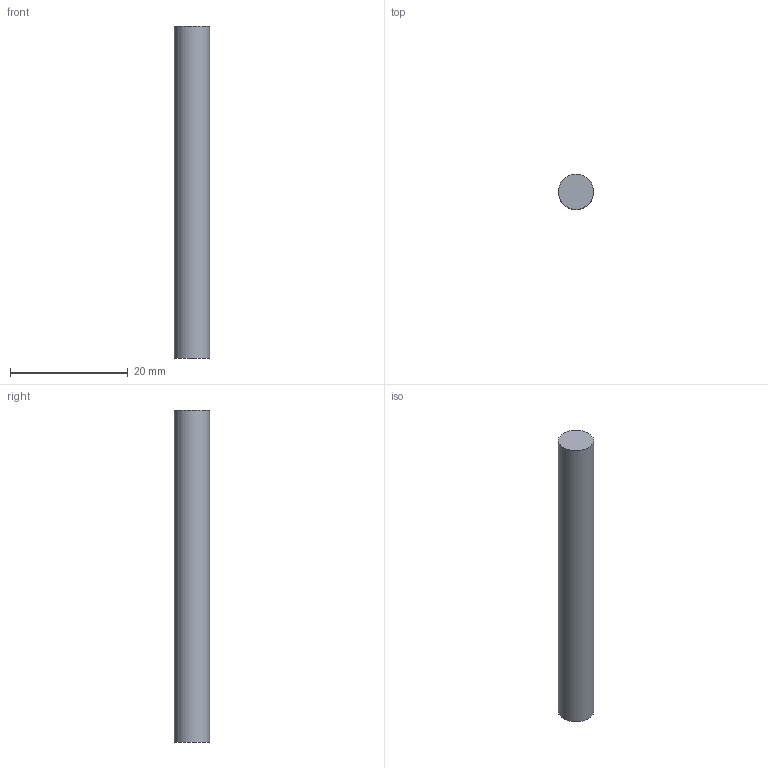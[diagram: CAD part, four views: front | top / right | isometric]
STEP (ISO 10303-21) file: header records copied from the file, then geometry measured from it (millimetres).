
FILE_DESCRIPTION(('Open CASCADE Model'),'2;1');
FILE_NAME('Open CASCADE Shape Model','2026-10-04T01:02:29',('Author'),( 'Open CASCADE'),'Open CASCADE STEP processor 8.0','Open CASCADE 8.0' ,'Unknown');
FILE_SCHEMA(('AUTOMOTIVE_DESIGN { 1 0 10303 214 1 1 1 1 }'));
Length unit declared in the file: millimetre
Products named in the file (1): Open CASCADE STEP translator 8.0 175
Bounding box: 6 x 6 x 56.5 mm (x, y, z)
Volume: 1597.5 mm3; surface area: 1121.5 mm2
Topology: 1 solids, 1 shells, 3 faces, 3 edges, 2 vertices
Faces by surface type: plane 2, cylinder 1
Full cylindrical faces by diameter (mm): 6 x1
Entity records: 108 total; most frequent: DIRECTION 19, CARTESIAN_POINT 15, AXIS2_PLACEMENT_3D 6, ORIENTED_EDGE 6, PCURVE 6, DEFINITIONAL_REPRESENTATION 6, LINE 5, VECTOR 5
